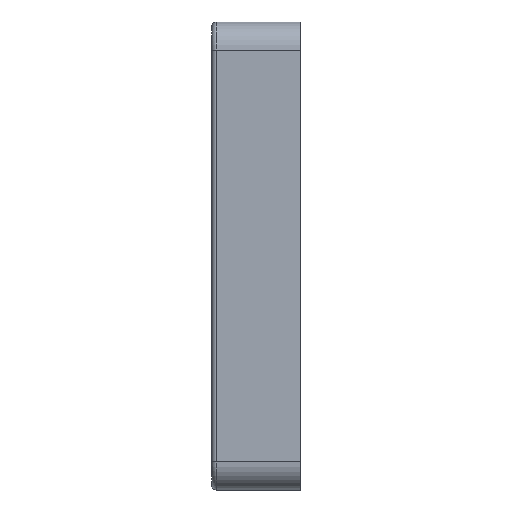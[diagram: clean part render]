
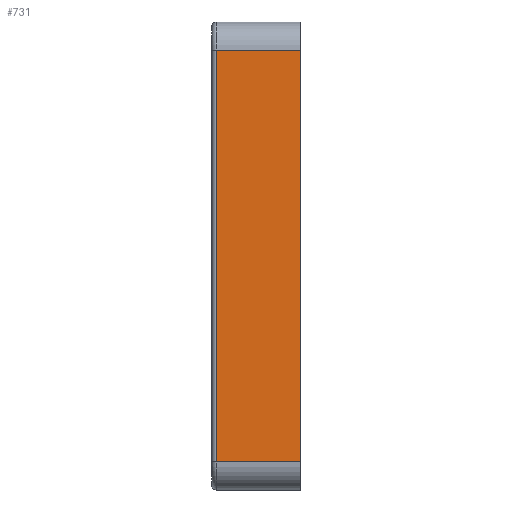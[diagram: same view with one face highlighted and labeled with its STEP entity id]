
A CAD part, left-side view. The second image highlights one B-rep face of the part: STEP entity #731.
In plain terms, the highlighted planar face has unit normal (-1, 0, 0).
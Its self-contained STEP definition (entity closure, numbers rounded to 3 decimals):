
#95 = ORIENTED_EDGE ( 'NONE', *, *, #4089, .T. ) ;
#179 = DIRECTION ( 'NONE',  ( 0., 0., 1. ) ) ;
#242 = EDGE_CURVE ( 'NONE', #2307, #3229, #576, .T. ) ;
#510 = ORIENTED_EDGE ( 'NONE', *, *, #242, .T. ) ;
#576 = LINE ( 'NONE', #1180, #2674 ) ;
#714 = CARTESIAN_POINT ( 'NONE',  ( 0., 0., -47. ) ) ;
#731 = ADVANCED_FACE ( 'NONE', ( #1267 ), #4092, .F. ) ;
#750 = VECTOR ( 'NONE', #4610, 1000. ) ;
#764 = CARTESIAN_POINT ( 'NONE',  ( 0., 1.5, 0. ) ) ;
#807 = VERTEX_POINT ( 'NONE', #3324 ) ;
#1001 = CARTESIAN_POINT ( 'NONE',  ( 0., 9., 0. ) ) ;
#1180 = CARTESIAN_POINT ( 'NONE',  ( 0., 0., 0. ) ) ;
#1267 = FACE_OUTER_BOUND ( 'NONE', #3401, .T. ) ;
#1302 = LINE ( 'NONE', #3953, #5324 ) ;
#1709 = CARTESIAN_POINT ( 'NONE',  ( 0., 1.5, -47. ) ) ;
#2011 = CARTESIAN_POINT ( 'NONE',  ( 0., 9., -3. ) ) ;
#2047 = DIRECTION ( 'NONE',  ( 0., 0., -1. ) ) ;
#2100 = EDGE_CURVE ( 'NONE', #4871, #807, #2344, .T. ) ;
#2224 = VECTOR ( 'NONE', #4339, 1000. ) ;
#2261 = ORIENTED_EDGE ( 'NONE', *, *, #2100, .T. ) ;
#2307 = VERTEX_POINT ( 'NONE', #714 ) ;
#2344 = LINE ( 'NONE', #1001, #2224 ) ;
#2674 = VECTOR ( 'NONE', #179, 1000. ) ;
#2695 = ORIENTED_EDGE ( 'NONE', *, *, #5017, .T. ) ;
#2786 = AXIS2_PLACEMENT_3D ( 'NONE', #764, #4527, #2047 ) ;
#3229 = VERTEX_POINT ( 'NONE', #4462 ) ;
#3324 = CARTESIAN_POINT ( 'NONE',  ( 0., 9., -47. ) ) ;
#3401 = EDGE_LOOP ( 'NONE', ( #510, #95, #2261, #2695 ) ) ;
#3953 = CARTESIAN_POINT ( 'NONE',  ( 0., 1.5, -3. ) ) ;
#4089 = EDGE_CURVE ( 'NONE', #3229, #4871, #1302, .T. ) ;
#4090 = LINE ( 'NONE', #1709, #750 ) ;
#4092 = PLANE ( 'NONE',  #2786 ) ;
#4339 = DIRECTION ( 'NONE',  ( 0., 0., -1. ) ) ;
#4382 = DIRECTION ( 'NONE',  ( 0., 1., 0. ) ) ;
#4462 = CARTESIAN_POINT ( 'NONE',  ( 0., 0., -3. ) ) ;
#4527 = DIRECTION ( 'NONE',  ( 1., 0., 0. ) ) ;
#4610 = DIRECTION ( 'NONE',  ( 0., -1., 0. ) ) ;
#4871 = VERTEX_POINT ( 'NONE', #2011 ) ;
#5017 = EDGE_CURVE ( 'NONE', #807, #2307, #4090, .T. ) ;
#5324 = VECTOR ( 'NONE', #4382, 1000. ) ;
